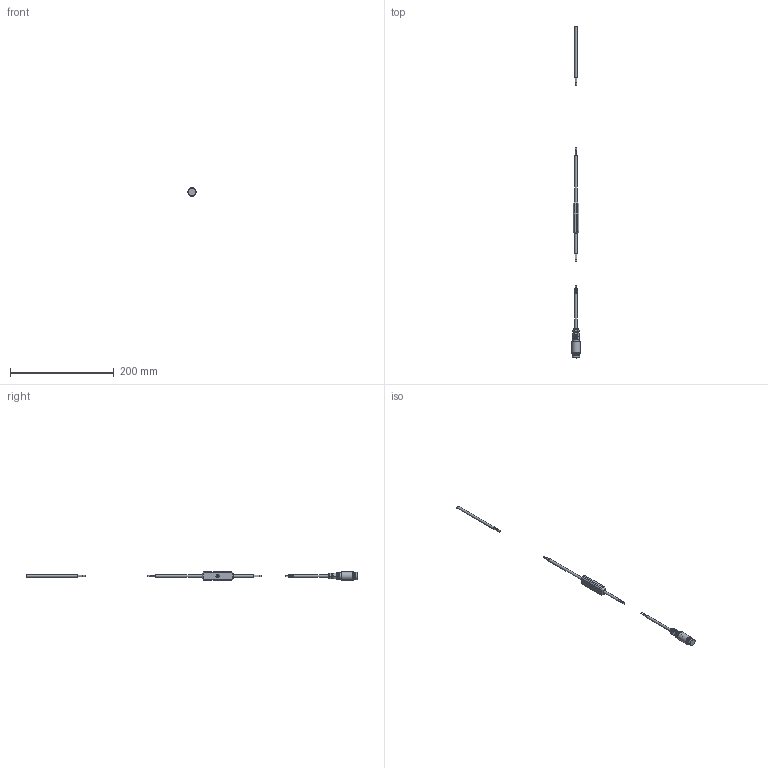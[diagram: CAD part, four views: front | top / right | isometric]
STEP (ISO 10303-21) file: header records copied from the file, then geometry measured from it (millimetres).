
FILE_DESCRIPTION (( 'STEP AP214' ), '1' );
FILE_NAME ('02487.01 Basisbaugruppe MiniSpot.STEP', '2023-07-28T10:13:30', ( '' ), ( '' ), 'SwSTEP 2.0', 'SolidWorks 2022', '' );
FILE_SCHEMA (( 'AUTOMOTIVE_DESIGN' ));
Length unit declared in the file: millimetre
Products named in the file (12): 02791.00 Halter f. M8x1-Kabelverschraubung MiniSpot; DIN 934 M3; 02873.00 Basisbaugruppe Kabelcontroller, klein; 02490.00 S-Mount M12 Lock-Ring; Senkkopfschraube M3x10; 02262.00 Sensorkabel 4x0,34 schwarz; 02872.00 Unterschale Kabelcontroller; 03410.00 Kabelverschraubung M8x1, f. 3.5 ... 5.5mm; 02492.00 Objektiv 16mm BOARD-LENS-IR ; 02871.00 Oberschale Kabelcontroller; 02488.01 Gehäuse MiniSpot; 02487.01 Basisbaugruppe MiniSpot
Assembly tree (14 placements, depth 3):
  02487.01 Basisbaugruppe MiniSpot
    02492.00 Objektiv 16mm BOARD-LENS-IR 
    02488.01 Gehäuse MiniSpot
    02490.00 S-Mount M12 Lock-Ring
    02791.00 Halter f. M8x1-Kabelverschraubung MiniSpot
    03410.00 Kabelverschraubung M8x1, f. 3.5 ... 5.5mm
    02262.00 Sensorkabel 4x0,34 schwarz  x2
    02873.00 Basisbaugruppe Kabelcontroller, klein
      02872.00 Unterschale Kabelcontroller
      02871.00 Oberschale Kabelcontroller
      02262.00 Sensorkabel 4x0,34 schwarz  x2
      DIN 934 M3
      Senkkopfschraube M3x10
Bounding box: 16 x 640.91 x 17 mm (x, y, z)
Volume: 20722.4 mm3; surface area: 19236.1 mm2
Topology: 13 solids, 13 shells, 512 faces, 1124 edges, 691 vertices
Faces by surface type: plane 233, cylinder 154, cone 114, torus 11
Full cylindrical faces by diameter (mm): 0.643 x1, 0.66 x16, 0.857 x5, 1.6 x16, 2 x4, 2.5 x1, 3 x2, 3.5 x3, 4.8 x4, 5.6 x2, 6.8 x1, 7 x1, 8 x1, 8.6 x2, 10 x1, 11 x1, 11.2 x1, 11.5 x3, 12 x3, 12.3 x2, 14 x1, 16 x1
Entity records: 13945 total; most frequent: CARTESIAN_POINT 3621, DIRECTION 1988, ORIENTED_EDGE 1914, EDGE_CURVE 957, AXIS2_PLACEMENT_3D 778, VERTEX_POINT 625, EDGE_LOOP 572, FACE_OUTER_BOUND 511
